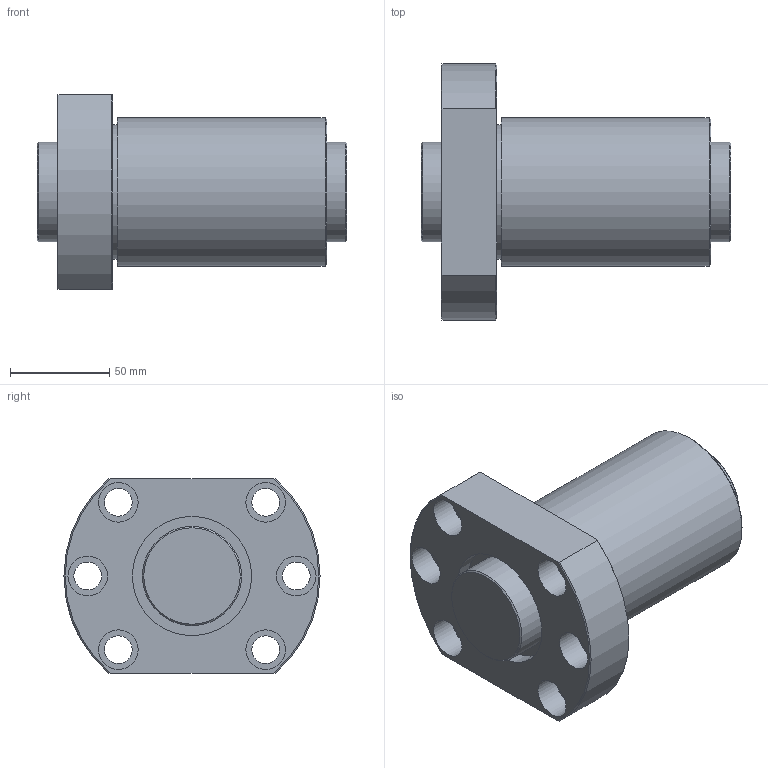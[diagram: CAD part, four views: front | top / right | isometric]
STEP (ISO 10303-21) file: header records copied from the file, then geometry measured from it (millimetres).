
FILE_DESCRIPTION(/* description */ ('STEP AP203'),/* implementation_level */ '2;1');
FILE_NAME(/* name */ 'DK5020-3RRG1+156LC0_000',/* time_stamp */ '2025-01-13T09:32:04+01:00',/* author */ ('License CC BY-ND 4.0'),/* organization */ ('CADENAS'),/* preprocessor_version */ 'ST-DEVELOPER v19.3',/* originating_system */ 'PARTsolutions',/* authorisation */ ' ');
FILE_SCHEMA (('CONFIG_CONTROL_DESIGN'));
Length unit declared in the file: millimetre
Products named in the file (3): DK5020-3RRG1+156LC0_000; DK 5020-3RR015600 Shaft; DK 5020-3RR0Nut
Assembly tree (2 placements, depth 2):
  DK5020-3RRG1+156LC0_000
    DK 5020-3RR015600 Shaft
    DK 5020-3RR0Nut
Bounding box: 156 x 129 x 98 mm (x, y, z)
Volume: 776371.3 mm3; surface area: 114488.4 mm2
Topology: 2 solids, 2 shells, 46 faces, 94 edges, 62 vertices
Faces by surface type: cylinder 21, plane 16, cone 9
Full cylindrical faces by diameter (mm): 8.566 x1, 14 x6, 20 x6, 50 x2, 60 x2, 67.5 x1, 75 x1
Entity records: 1222 total; most frequent: CARTESIAN_POINT 226, DIRECTION 204, ORIENTED_EDGE 134, AXIS2_PLACEMENT_3D 98, EDGE_LOOP 96, FACE_BOUND 96, EDGE_CURVE 67, VERTEX_POINT 59
